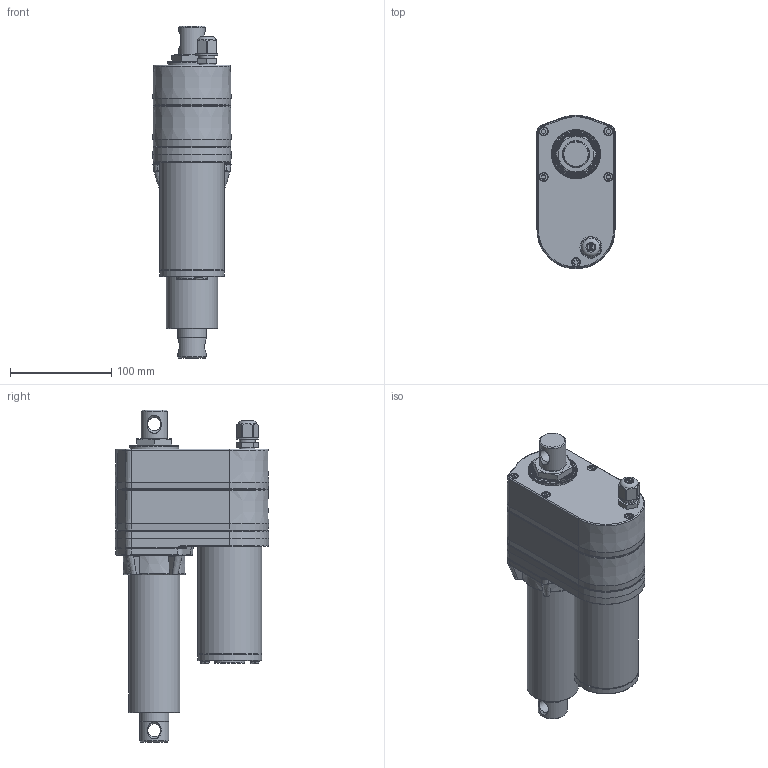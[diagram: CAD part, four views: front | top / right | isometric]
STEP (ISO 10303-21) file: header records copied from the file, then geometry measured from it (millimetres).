
FILE_DESCRIPTION (( 'STEP AP203' ), '1' );
FILE_NAME ('ID10II-A-With POT-102.STEP', '2014-06-10T03:05:50', ( '' ), ( '' ), 'SwSTEP 2.0', 'SolidWorks 2013', '' );
FILE_SCHEMA (( 'CONFIG_CONTROL_DESIGN' ));
Length unit declared in the file: millimetre
Products named in the file (3): ID10II-A-With POT-102; ID10II-A-With POT-102-1; ID10II-A-With POT-102-2
Assembly tree (2 placements, depth 2):
  ID10II-A-With POT-102
    ID10II-A-With POT-102-1
    ID10II-A-With POT-102-2
Bounding box: 77.15 x 151.65 x 327.7 mm (x, y, z)
Volume: 1805052.6 mm3; surface area: 150780.3 mm2
Topology: 2 solids, 2 shells, 852 faces, 2221 edges, 1415 vertices
Faces by surface type: plane 549, cylinder 155, torus 63, cone 45, bspline 38, sphere 2
Full cylindrical faces by diameter (mm): 0.05 x1, 1.6 x2, 7.2 x1, 8.5 x7, 9 x5, 13 x2, 15.75 x2, 21.6 x1, 26 x1, 28 x1, 28.1 x1, 28.6 x3, 28.62 x1, 30 x1, 48.2 x1, 50.8 x1, 63 x1, 63.5 x2
Entity records: 27961 total; most frequent: CARTESIAN_POINT 8853, ORIENTED_EDGE 4284, DIRECTION 3560, EDGE_CURVE 2142, VERTEX_POINT 1394, AXIS2_PLACEMENT_3D 1303, EDGE_LOOP 956, LINE 954
